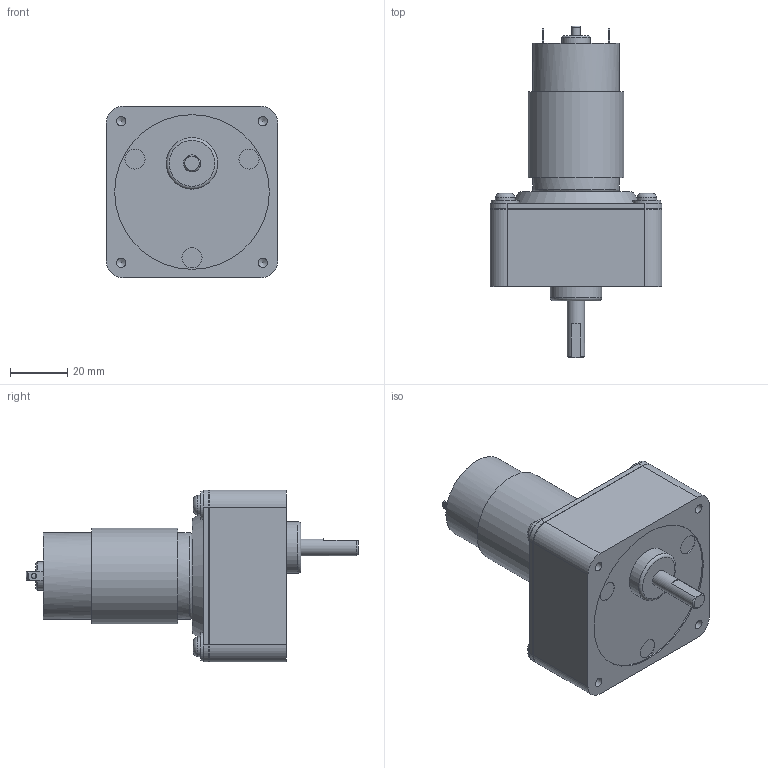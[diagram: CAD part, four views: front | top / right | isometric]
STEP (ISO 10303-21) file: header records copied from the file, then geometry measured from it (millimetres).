
FILE_DESCRIPTION((''),'2;1');
FILE_NAME('\\Servert1600\threepeace\2015homepage\STP\HP-Data_GM_3D_STEP\TP-3452A,B,C-CE-5～1000-H00-12,24.stp','2016-11-11T11:45:52',('Administrator'),(''),'Autodesk Inventor 2010','Autodesk Inventor 2010','');
FILE_SCHEMA(('AUTOMOTIVE_DESIGN { 1 0 10303 214 1 1 1 1 }'));
Length unit declared in the file: millimetre
Products named in the file (3): TP-3452A,B,C-CE-5～1000-H00-12,24; ce; TP-3452A,B,C
Assembly tree (2 placements, depth 2):
  TP-3452A,B,C-CE-5～1000-H00-12,24
    ce
    TP-3452A,B,C
Bounding box: 60 x 116 x 60 mm (x, y, z)
Volume: 153029.4 mm3; surface area: 22988.6 mm2
Topology: 2 solids, 2 shells, 123 faces, 271 edges, 177 vertices
Faces by surface type: plane 60, cylinder 35, bspline 16, torus 8, cone 4
Full cylindrical faces by diameter (mm): 2.5 x1, 3.17 x2, 6 x1, 6.8 x4, 7 x3, 9.8 x4, 9.9 x1, 10 x1, 18 x1, 30.4 x1, 54 x1
Entity records: 3337 total; most frequent: CARTESIAN_POINT 755, DIRECTION 539, ORIENTED_EDGE 430, EDGE_CURVE 215, AXIS2_PLACEMENT_3D 214, EDGE_LOOP 195, VERTEX_POINT 164, FACE_OUTER_BOUND 123
